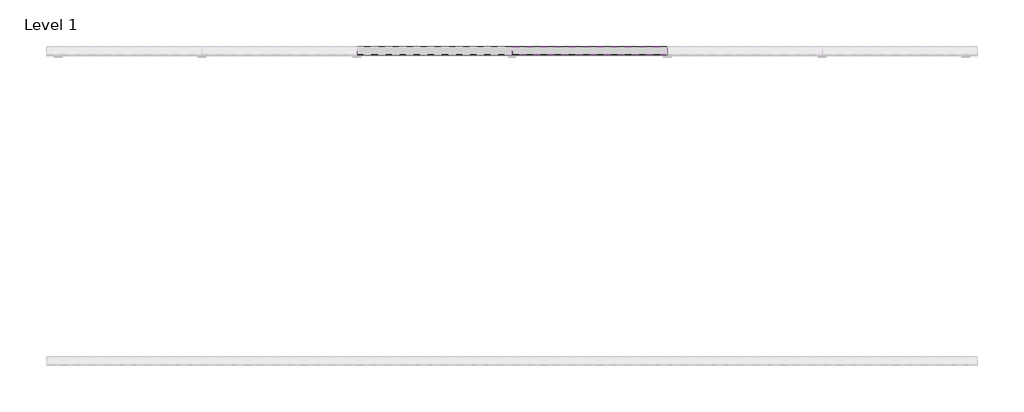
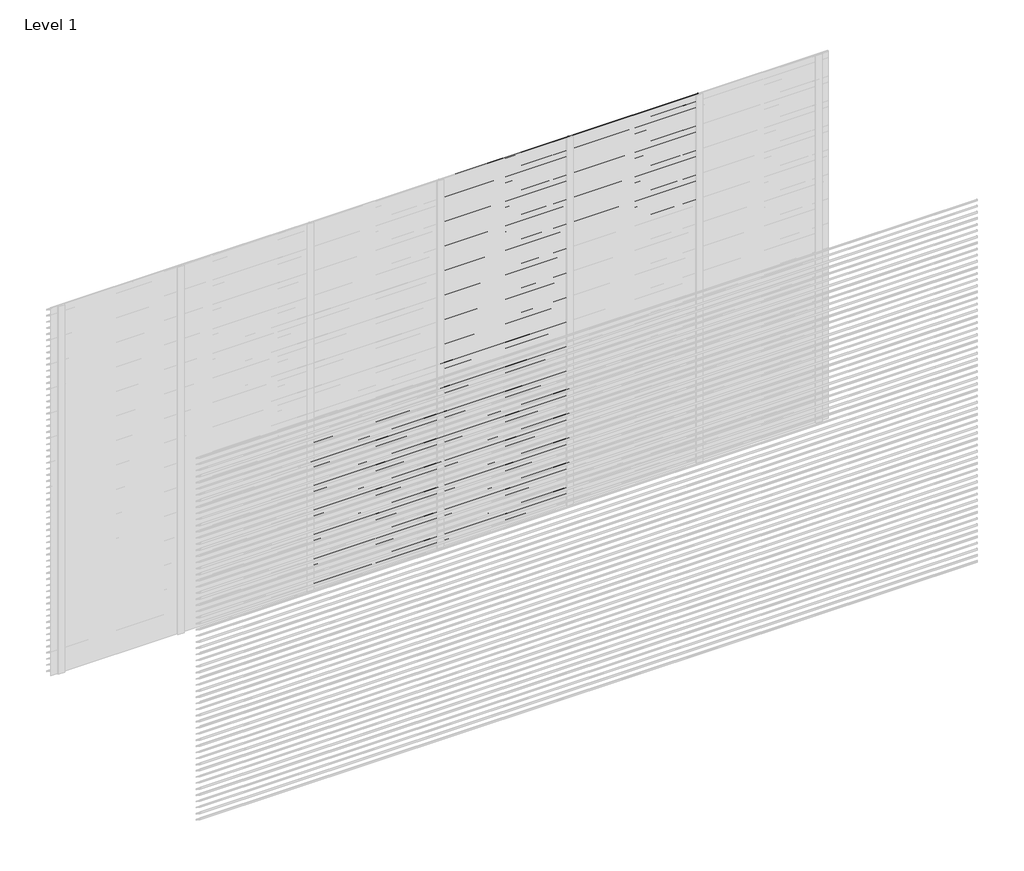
# One storey, part 17 of 18: 102 proxies.
"""IFC4 building model written with IfcOpenShell, lengths in millimetres."""

from ifc_helpers import new_model, si_unit, frame, origin, place, context, project, spatial, polyline, outline, extrude, element, save

model = new_model("IFC4")

# Units and contexts
model_context = context("Model", 3, world=origin())
ifc_project = project(units=[si_unit("LENGTHUNIT", "METRE", prefix="MILLI")], contexts=[model_context])

# Site, building, storey
site = spatial("IfcSite", under=ifc_project)
building = spatial("IfcBuilding", under=site)
storey = spatial("IfcBuildingStorey", under=building, Name="Level 1", Elevation=0.0)

# Proxies
placement = place(None, origin())
element("IfcBuildingElementProxy", 1, Name="Wall Sweeps", at=placement, inside=storey, context=model_context, shape_type="SweptSolid", body=[
    extrude(outline(polyline([(5.0, 1200.0), (5.0, 1191.0744429), (57.0, 1156.0), (57.0, 1150.0), (3.0, 1186.4234599), (3.0, 1200.0), (5.0, 1200.0)])), frame((2000.0, 0.0, 0.0), z_axis=(1.0, 0.0, 0.0), x_axis=(0.0, 1.0, 0.0)), (0.0, 0.0, 1.0), 1000.0),
])
element("IfcBuildingElementProxy", 2, Name="Wall Sweeps", at=placement, inside=storey, context=model_context, shape_type="SweptSolid", body=[
    extrude(outline(polyline([(5.0, 1150.0), (5.0, 1141.0744429), (57.0, 1106.0), (57.0, 1100.0), (3.0, 1136.4234599), (3.0, 1150.0), (5.0, 1150.0)])), frame((2000.0, 0.0, 0.0), z_axis=(1.0, 0.0, 0.0), x_axis=(0.0, 1.0, 0.0)), (0.0, 0.0, 1.0), 1000.0),
])
element("IfcBuildingElementProxy", 3, Name="Wall Sweeps", at=placement, inside=storey, context=model_context, shape_type="SweptSolid", body=[
    extrude(outline(polyline([(5.0, 1100.0), (5.0, 1091.0744429), (57.0, 1056.0), (57.0, 1050.0), (3.0, 1086.4234599), (3.0, 1100.0), (5.0, 1100.0)])), frame((2000.0, 0.0, 0.0), z_axis=(1.0, 0.0, 0.0), x_axis=(0.0, 1.0, 0.0)), (0.0, 0.0, 1.0), 1000.0),
])
element("IfcBuildingElementProxy", 4, Name="Wall Sweeps", at=placement, inside=storey, context=model_context, shape_type="SweptSolid", body=[
    extrude(outline(polyline([(5.0, 1050.0), (5.0, 1041.0744429), (57.0, 1006.0), (57.0, 1000.0), (3.0, 1036.4234599), (3.0, 1050.0), (5.0, 1050.0)])), frame((2000.0, 0.0, 0.0), z_axis=(1.0, 0.0, 0.0), x_axis=(0.0, 1.0, 0.0)), (0.0, 0.0, 1.0), 1000.0),
])
element("IfcBuildingElementProxy", 5, Name="Wall Sweeps", at=placement, inside=storey, context=model_context, shape_type="SweptSolid", body=[
    extrude(outline(polyline([(5.0, 1000.0), (5.0, 991.0744429), (57.0, 956.0), (57.0, 950.0), (3.0, 986.4234599), (3.0, 1000.0), (5.0, 1000.0)])), frame((2000.0, 0.0, 0.0), z_axis=(1.0, 0.0, 0.0), x_axis=(0.0, 1.0, 0.0)), (0.0, 0.0, 1.0), 1000.0),
])
element("IfcBuildingElementProxy", 6, Name="Wall Sweeps", at=placement, inside=storey, context=model_context, shape_type="SweptSolid", body=[
    extrude(outline(polyline([(5.0, 950.0), (5.0, 941.0744429), (57.0, 906.0), (57.0, 900.0), (3.0, 936.4234599), (3.0, 950.0), (5.0, 950.0)])), frame((2000.0, 0.0, 0.0), z_axis=(1.0, 0.0, 0.0), x_axis=(0.0, 1.0, 0.0)), (0.0, 0.0, 1.0), 1000.0),
])
element("IfcBuildingElementProxy", 7, Name="Wall Sweeps", at=placement, inside=storey, context=model_context, shape_type="SweptSolid", body=[
    extrude(outline(polyline([(5.0, 900.0), (5.0, 891.0744429), (57.0, 856.0), (57.0, 850.0), (3.0, 886.4234599), (3.0, 900.0), (5.0, 900.0)])), frame((2000.0, 0.0, 0.0), z_axis=(1.0, 0.0, 0.0), x_axis=(0.0, 1.0, 0.0)), (0.0, 0.0, 1.0), 1000.0),
])
element("IfcBuildingElementProxy", 8, Name="Wall Sweeps", at=placement, inside=storey, context=model_context, shape_type="SweptSolid", body=[
    extrude(outline(polyline([(5.0, 850.0), (5.0, 841.0744429), (57.0, 806.0), (57.0, 800.0), (3.0, 836.4234599), (3.0, 850.0), (5.0, 850.0)])), frame((2000.0, 0.0, 0.0), z_axis=(1.0, 0.0, 0.0), x_axis=(0.0, 1.0, 0.0)), (0.0, 0.0, 1.0), 1000.0),
])
element("IfcBuildingElementProxy", 9, Name="Wall Sweeps", at=placement, inside=storey, context=model_context, shape_type="SweptSolid", body=[
    extrude(outline(polyline([(5.0, 800.0), (5.0, 791.0744429), (57.0, 756.0), (57.0, 750.0), (3.0, 786.4234599), (3.0, 800.0), (5.0, 800.0)])), frame((2000.0, 0.0, 0.0), z_axis=(1.0, 0.0, 0.0), x_axis=(0.0, 1.0, 0.0)), (0.0, 0.0, 1.0), 1000.0),
])
element("IfcBuildingElementProxy", 10, Name="Wall Sweeps", at=placement, inside=storey, context=model_context, shape_type="SweptSolid", body=[
    extrude(outline(polyline([(5.0, 750.0), (5.0, 741.0744429), (57.0, 706.0), (57.0, 700.0), (3.0, 736.4234599), (3.0, 750.0), (5.0, 750.0)])), frame((2000.0, 0.0, 0.0), z_axis=(1.0, 0.0, 0.0), x_axis=(0.0, 1.0, 0.0)), (0.0, 0.0, 1.0), 1000.0),
])
element("IfcBuildingElementProxy", 11, Name="Wall Sweeps", at=placement, inside=storey, context=model_context, shape_type="SweptSolid", body=[
    extrude(outline(polyline([(5.0, 700.0), (5.0, 691.0744429), (57.0, 656.0), (57.0, 650.0), (3.0, 686.4234599), (3.0, 700.0), (5.0, 700.0)])), frame((2000.0, 0.0, 0.0), z_axis=(1.0, 0.0, 0.0), x_axis=(0.0, 1.0, 0.0)), (0.0, 0.0, 1.0), 1000.0),
])
element("IfcBuildingElementProxy", 12, Name="Wall Sweeps", at=placement, inside=storey, context=model_context, shape_type="SweptSolid", body=[
    extrude(outline(polyline([(5.0, 650.0), (5.0, 641.0744429), (57.0, 606.0), (57.0, 600.0), (3.0, 636.4234599), (3.0, 650.0), (5.0, 650.0)])), frame((2000.0, 0.0, 0.0), z_axis=(1.0, 0.0, 0.0), x_axis=(0.0, 1.0, 0.0)), (0.0, 0.0, 1.0), 1000.0),
])
element("IfcBuildingElementProxy", 13, Name="Wall Sweeps", at=placement, inside=storey, context=model_context, shape_type="SweptSolid", body=[
    extrude(outline(polyline([(5.0, 600.0), (5.0, 591.0744429), (57.0, 556.0), (57.0, 550.0), (3.0, 586.4234599), (3.0, 600.0), (5.0, 600.0)])), frame((2000.0, 0.0, 0.0), z_axis=(1.0, 0.0, 0.0), x_axis=(0.0, 1.0, 0.0)), (0.0, 0.0, 1.0), 1000.0),
])
element("IfcBuildingElementProxy", 14, Name="Wall Sweeps", at=placement, inside=storey, context=model_context, shape_type="SweptSolid", body=[
    extrude(outline(polyline([(5.0, 550.0), (5.0, 541.0744429), (57.0, 506.0), (57.0, 500.0), (3.0, 536.4234599), (3.0, 550.0), (5.0, 550.0)])), frame((2000.0, 0.0, 0.0), z_axis=(1.0, 0.0, 0.0), x_axis=(0.0, 1.0, 0.0)), (0.0, 0.0, 1.0), 1000.0),
])
element("IfcBuildingElementProxy", 15, Name="Wall Sweeps", at=placement, inside=storey, context=model_context, shape_type="SweptSolid", body=[
    extrude(outline(polyline([(5.0, 500.0), (5.0, 491.0744429), (57.0, 456.0), (57.0, 450.0), (3.0, 486.4234599), (3.0, 500.0), (5.0, 500.0)])), frame((2000.0, 0.0, 0.0), z_axis=(1.0, 0.0, 0.0), x_axis=(0.0, 1.0, 0.0)), (0.0, 0.0, 1.0), 1000.0),
])
element("IfcBuildingElementProxy", 16, Name="Wall Sweeps", at=placement, inside=storey, context=model_context, shape_type="SweptSolid", body=[
    extrude(outline(polyline([(5.0, 450.0), (5.0, 441.0744429), (57.0, 406.0), (57.0, 400.0), (3.0, 436.4234599), (3.0, 450.0), (5.0, 450.0)])), frame((2000.0, 0.0, 0.0), z_axis=(1.0, 0.0, 0.0), x_axis=(0.0, 1.0, 0.0)), (0.0, 0.0, 1.0), 1000.0),
])
element("IfcBuildingElementProxy", 17, Name="Wall Sweeps", at=placement, inside=storey, context=model_context, shape_type="SweptSolid", body=[
    extrude(outline(polyline([(5.0, 400.0), (5.0, 391.0744429), (57.0, 356.0), (57.0, 350.0), (3.0, 386.4234599), (3.0, 400.0), (5.0, 400.0)])), frame((2000.0, 0.0, 0.0), z_axis=(1.0, 0.0, 0.0), x_axis=(0.0, 1.0, 0.0)), (0.0, 0.0, 1.0), 1000.0),
])
element("IfcBuildingElementProxy", 18, Name="Wall Sweeps", at=placement, inside=storey, context=model_context, shape_type="SweptSolid", body=[
    extrude(outline(polyline([(5.0, 350.0), (5.0, 341.0744429), (57.0, 306.0), (57.0, 300.0), (3.0, 336.4234599), (3.0, 350.0), (5.0, 350.0)])), frame((2000.0, 0.0, 0.0), z_axis=(1.0, 0.0, 0.0), x_axis=(0.0, 1.0, 0.0)), (0.0, 0.0, 1.0), 1000.0),
])
element("IfcBuildingElementProxy", 19, Name="Wall Sweeps", at=placement, inside=storey, context=model_context, shape_type="SweptSolid", body=[
    extrude(outline(polyline([(5.0, 300.0), (5.0, 291.0744429), (57.0, 256.0), (57.0, 250.0), (3.0, 286.4234599), (3.0, 300.0), (5.0, 300.0)])), frame((2000.0, 0.0, 0.0), z_axis=(1.0, 0.0, 0.0), x_axis=(0.0, 1.0, 0.0)), (0.0, 0.0, 1.0), 1000.0),
])
element("IfcBuildingElementProxy", 20, Name="Wall Sweeps", at=placement, inside=storey, context=model_context, shape_type="SweptSolid", body=[
    extrude(outline(polyline([(5.0, 250.0), (5.0, 241.0744429), (57.0, 206.0), (57.0, 200.0), (3.0, 236.4234599), (3.0, 250.0), (5.0, 250.0)])), frame((2000.0, 0.0, 0.0), z_axis=(1.0, 0.0, 0.0), x_axis=(0.0, 1.0, 0.0)), (0.0, 0.0, 1.0), 1000.0),
])
element("IfcBuildingElementProxy", 21, Name="Wall Sweeps", at=placement, inside=storey, context=model_context, shape_type="SweptSolid", body=[
    extrude(outline(polyline([(5.0, 200.0), (5.0, 191.0744429), (57.0, 156.0), (57.0, 150.0), (3.0, 186.4234599), (3.0, 200.0), (5.0, 200.0)])), frame((2000.0, 0.0, 0.0), z_axis=(1.0, 0.0, 0.0), x_axis=(0.0, 1.0, 0.0)), (0.0, 0.0, 1.0), 1000.0),
])
element("IfcBuildingElementProxy", 22, Name="Wall Sweeps", at=placement, inside=storey, context=model_context, shape_type="SweptSolid", body=[
    extrude(outline(polyline([(5.0, 150.0), (5.0, 141.0744429), (57.0, 106.0), (57.0, 100.0), (3.0, 136.4234599), (3.0, 150.0), (5.0, 150.0)])), frame((2000.0, 0.0, 0.0), z_axis=(1.0, 0.0, 0.0), x_axis=(0.0, 1.0, 0.0)), (0.0, 0.0, 1.0), 1000.0),
])
element("IfcBuildingElementProxy", 23, Name="Wall Sweeps", at=placement, inside=storey, context=model_context, shape_type="SweptSolid", body=[
    extrude(outline(polyline([(5.0, 100.0), (5.0, 91.0744429), (57.0, 56.0), (57.0, 50.0), (3.0, 86.4234599), (3.0, 100.0), (5.0, 100.0)])), frame((2000.0, 0.0, 0.0), z_axis=(1.0, 0.0, 0.0), x_axis=(0.0, 1.0, 0.0)), (0.0, 0.0, 1.0), 1000.0),
])
element("IfcBuildingElementProxy", 24, Name="Wall Sweeps", at=placement, inside=storey, context=model_context, shape_type="SweptSolid", body=[
    extrude(outline(polyline([(5.0, 50.0), (5.0, 41.0744429), (57.0, 6.0), (57.0, 0.0), (3.0, 36.4234599), (3.0, 50.0), (5.0, 50.0)])), frame((2000.0, 0.0, 0.0), z_axis=(1.0, 0.0, 0.0), x_axis=(0.0, 1.0, 0.0)), (0.0, 0.0, 1.0), 1000.0),
])
element("IfcBuildingElementProxy", 25, Name="Wall Sweeps", at=placement, inside=storey, context=model_context, shape_type="SweptSolid", body=[
    extrude(outline(polyline([(5.0, 3000.0), (5.0, 2991.0744429), (57.0, 2956.0), (57.0, 2950.0), (3.0, 2986.4234599), (3.0, 3000.0), (5.0, 3000.0)])), frame((3000.0, 0.0, 0.0), z_axis=(1.0, 0.0, 0.0), x_axis=(0.0, 1.0, 0.0)), (0.0, 0.0, 1.0), 1000.0),
])
element("IfcBuildingElementProxy", 26, Name="Wall Sweeps", at=placement, inside=storey, context=model_context, shape_type="SweptSolid", body=[
    extrude(outline(polyline([(5.0, 2950.0), (5.0, 2941.0744429), (57.0, 2906.0), (57.0, 2900.0), (3.0, 2936.4234599), (3.0, 2950.0), (5.0, 2950.0)])), frame((3000.0, 0.0, 0.0), z_axis=(1.0, 0.0, 0.0), x_axis=(0.0, 1.0, 0.0)), (0.0, 0.0, 1.0), 1000.0),
])
element("IfcBuildingElementProxy", 27, Name="Wall Sweeps", at=placement, inside=storey, context=model_context, shape_type="SweptSolid", body=[
    extrude(outline(polyline([(5.0, 2900.0), (5.0, 2891.0744429), (57.0, 2856.0), (57.0, 2850.0), (3.0, 2886.4234599), (3.0, 2900.0), (5.0, 2900.0)])), frame((3000.0, 0.0, 0.0), z_axis=(1.0, 0.0, 0.0), x_axis=(0.0, 1.0, 0.0)), (0.0, 0.0, 1.0), 1000.0),
])
element("IfcBuildingElementProxy", 28, Name="Wall Sweeps", at=placement, inside=storey, context=model_context, shape_type="SweptSolid", body=[
    extrude(outline(polyline([(5.0, 2850.0), (5.0, 2841.0744429), (57.0, 2806.0), (57.0, 2800.0), (3.0, 2836.4234599), (3.0, 2850.0), (5.0, 2850.0)])), frame((3000.0, 0.0, 0.0), z_axis=(1.0, 0.0, 0.0), x_axis=(0.0, 1.0, 0.0)), (0.0, 0.0, 1.0), 1000.0),
])
element("IfcBuildingElementProxy", 29, Name="Wall Sweeps", at=placement, inside=storey, context=model_context, shape_type="SweptSolid", body=[
    extrude(outline(polyline([(5.0, 2800.0), (5.0, 2791.0744429), (57.0, 2756.0), (57.0, 2750.0), (3.0, 2786.4234599), (3.0, 2800.0), (5.0, 2800.0)])), frame((3000.0, 0.0, 0.0), z_axis=(1.0, 0.0, 0.0), x_axis=(0.0, 1.0, 0.0)), (0.0, 0.0, 1.0), 1000.0),
])
element("IfcBuildingElementProxy", 30, Name="Wall Sweeps", at=placement, inside=storey, context=model_context, shape_type="SweptSolid", body=[
    extrude(outline(polyline([(5.0, 2750.0), (5.0, 2741.0744429), (57.0, 2706.0), (57.0, 2700.0), (3.0, 2736.4234599), (3.0, 2750.0), (5.0, 2750.0)])), frame((3000.0, 0.0, 0.0), z_axis=(1.0, 0.0, 0.0), x_axis=(0.0, 1.0, 0.0)), (0.0, 0.0, 1.0), 1000.0),
])
element("IfcBuildingElementProxy", 31, Name="Wall Sweeps", at=placement, inside=storey, context=model_context, shape_type="SweptSolid", body=[
    extrude(outline(polyline([(5.0, 2700.0), (5.0, 2691.0744429), (57.0, 2656.0), (57.0, 2650.0), (3.0, 2686.4234599), (3.0, 2700.0), (5.0, 2700.0)])), frame((3000.0, 0.0, 0.0), z_axis=(1.0, 0.0, 0.0), x_axis=(0.0, 1.0, 0.0)), (0.0, 0.0, 1.0), 1000.0),
])
element("IfcBuildingElementProxy", 32, Name="Wall Sweeps", at=placement, inside=storey, context=model_context, shape_type="SweptSolid", body=[
    extrude(outline(polyline([(5.0, 2650.0), (5.0, 2641.0744429), (57.0, 2606.0), (57.0, 2600.0), (3.0, 2636.4234599), (3.0, 2650.0), (5.0, 2650.0)])), frame((3000.0, 0.0, 0.0), z_axis=(1.0, 0.0, 0.0), x_axis=(0.0, 1.0, 0.0)), (0.0, 0.0, 1.0), 1000.0),
])
element("IfcBuildingElementProxy", 33, Name="Wall Sweeps", at=placement, inside=storey, context=model_context, shape_type="SweptSolid", body=[
    extrude(outline(polyline([(5.0, 2600.0), (5.0, 2591.0744429), (57.0, 2556.0), (57.0, 2550.0), (3.0, 2586.4234599), (3.0, 2600.0), (5.0, 2600.0)])), frame((3000.0, 0.0, 0.0), z_axis=(1.0, 0.0, 0.0), x_axis=(0.0, 1.0, 0.0)), (0.0, 0.0, 1.0), 1000.0),
])
element("IfcBuildingElementProxy", 34, Name="Wall Sweeps", at=placement, inside=storey, context=model_context, shape_type="SweptSolid", body=[
    extrude(outline(polyline([(5.0, 2550.0), (5.0, 2541.0744429), (57.0, 2506.0), (57.0, 2500.0), (3.0, 2536.4234599), (3.0, 2550.0), (5.0, 2550.0)])), frame((3000.0, 0.0, 0.0), z_axis=(1.0, 0.0, 0.0), x_axis=(0.0, 1.0, 0.0)), (0.0, 0.0, 1.0), 1000.0),
])
element("IfcBuildingElementProxy", 35, Name="Wall Sweeps", at=placement, inside=storey, context=model_context, shape_type="SweptSolid", body=[
    extrude(outline(polyline([(5.0, 2500.0), (5.0, 2491.0744429), (57.0, 2456.0), (57.0, 2450.0), (3.0, 2486.4234599), (3.0, 2500.0), (5.0, 2500.0)])), frame((3000.0, 0.0, 0.0), z_axis=(1.0, 0.0, 0.0), x_axis=(0.0, 1.0, 0.0)), (0.0, 0.0, 1.0), 1000.0),
])
element("IfcBuildingElementProxy", 36, Name="Wall Sweeps", at=placement, inside=storey, context=model_context, shape_type="SweptSolid", body=[
    extrude(outline(polyline([(5.0, 2450.0), (5.0, 2441.0744429), (57.0, 2406.0), (57.0, 2400.0), (3.0, 2436.4234599), (3.0, 2450.0), (5.0, 2450.0)])), frame((3000.0, 0.0, 0.0), z_axis=(1.0, 0.0, 0.0), x_axis=(0.0, 1.0, 0.0)), (0.0, 0.0, 1.0), 1000.0),
])
element("IfcBuildingElementProxy", 37, Name="Wall Sweeps", at=placement, inside=storey, context=model_context, shape_type="SweptSolid", body=[
    extrude(outline(polyline([(5.0, 2400.0), (5.0, 2391.0744429), (57.0, 2356.0), (57.0, 2350.0), (3.0, 2386.4234599), (3.0, 2400.0), (5.0, 2400.0)])), frame((3000.0, 0.0, 0.0), z_axis=(1.0, 0.0, 0.0), x_axis=(0.0, 1.0, 0.0)), (0.0, 0.0, 1.0), 1000.0),
])
element("IfcBuildingElementProxy", 38, Name="Wall Sweeps", at=placement, inside=storey, context=model_context, shape_type="SweptSolid", body=[
    extrude(outline(polyline([(5.0, 2350.0), (5.0, 2341.0744429), (57.0, 2306.0), (57.0, 2300.0), (3.0, 2336.4234599), (3.0, 2350.0), (5.0, 2350.0)])), frame((3000.0, 0.0, 0.0), z_axis=(1.0, 0.0, 0.0), x_axis=(0.0, 1.0, 0.0)), (0.0, 0.0, 1.0), 1000.0),
])
element("IfcBuildingElementProxy", 39, Name="Wall Sweeps", at=placement, inside=storey, context=model_context, shape_type="SweptSolid", body=[
    extrude(outline(polyline([(5.0, 2300.0), (5.0, 2291.0744429), (57.0, 2256.0), (57.0, 2250.0), (3.0, 2286.4234599), (3.0, 2300.0), (5.0, 2300.0)])), frame((3000.0, 0.0, 0.0), z_axis=(1.0, 0.0, 0.0), x_axis=(0.0, 1.0, 0.0)), (0.0, 0.0, 1.0), 1000.0),
])
element("IfcBuildingElementProxy", 40, Name="Wall Sweeps", at=placement, inside=storey, context=model_context, shape_type="SweptSolid", body=[
    extrude(outline(polyline([(5.0, 2250.0), (5.0, 2241.0744429), (57.0, 2206.0), (57.0, 2200.0), (3.0, 2236.4234599), (3.0, 2250.0), (5.0, 2250.0)])), frame((3000.0, 0.0, 0.0), z_axis=(1.0, 0.0, 0.0), x_axis=(0.0, 1.0, 0.0)), (0.0, 0.0, 1.0), 1000.0),
])
element("IfcBuildingElementProxy", 41, Name="Wall Sweeps", at=placement, inside=storey, context=model_context, shape_type="SweptSolid", body=[
    extrude(outline(polyline([(5.0, 2200.0), (5.0, 2191.0744429), (57.0, 2156.0), (57.0, 2150.0), (3.0, 2186.4234599), (3.0, 2200.0), (5.0, 2200.0)])), frame((3000.0, 0.0, 0.0), z_axis=(1.0, 0.0, 0.0), x_axis=(0.0, 1.0, 0.0)), (0.0, 0.0, 1.0), 1000.0),
])
element("IfcBuildingElementProxy", 42, Name="Wall Sweeps", at=placement, inside=storey, context=model_context, shape_type="SweptSolid", body=[
    extrude(outline(polyline([(5.0, 2150.0), (5.0, 2141.0744429), (57.0, 2106.0), (57.0, 2100.0), (3.0, 2136.4234599), (3.0, 2150.0), (5.0, 2150.0)])), frame((3000.0, 0.0, 0.0), z_axis=(1.0, 0.0, 0.0), x_axis=(0.0, 1.0, 0.0)), (0.0, 0.0, 1.0), 1000.0),
])
element("IfcBuildingElementProxy", 43, Name="Wall Sweeps", at=placement, inside=storey, context=model_context, shape_type="SweptSolid", body=[
    extrude(outline(polyline([(5.0, 2100.0), (5.0, 2091.0744429), (57.0, 2056.0), (57.0, 2050.0), (3.0, 2086.4234599), (3.0, 2100.0), (5.0, 2100.0)])), frame((3000.0, 0.0, 0.0), z_axis=(1.0, 0.0, 0.0), x_axis=(0.0, 1.0, 0.0)), (0.0, 0.0, 1.0), 1000.0),
])
element("IfcBuildingElementProxy", 44, Name="Wall Sweeps", at=placement, inside=storey, context=model_context, shape_type="SweptSolid", body=[
    extrude(outline(polyline([(5.0, 2050.0), (5.0, 2041.0744429), (57.0, 2006.0), (57.0, 2000.0), (3.0, 2036.4234599), (3.0, 2050.0), (5.0, 2050.0)])), frame((3000.0, 0.0, 0.0), z_axis=(1.0, 0.0, 0.0), x_axis=(0.0, 1.0, 0.0)), (0.0, 0.0, 1.0), 1000.0),
])
element("IfcBuildingElementProxy", 45, Name="Wall Sweeps", at=placement, inside=storey, context=model_context, shape_type="SweptSolid", body=[
    extrude(outline(polyline([(5.0, 2000.0), (5.0, 1991.0744429), (57.0, 1956.0), (57.0, 1950.0), (3.0, 1986.4234599), (3.0, 2000.0), (5.0, 2000.0)])), frame((3000.0, 0.0, 0.0), z_axis=(1.0, 0.0, 0.0), x_axis=(0.0, 1.0, 0.0)), (0.0, 0.0, 1.0), 1000.0),
])
element("IfcBuildingElementProxy", 46, Name="Wall Sweeps", at=placement, inside=storey, context=model_context, shape_type="SweptSolid", body=[
    extrude(outline(polyline([(5.0, 1950.0), (5.0, 1941.0744429), (57.0, 1906.0), (57.0, 1900.0), (3.0, 1936.4234599), (3.0, 1950.0), (5.0, 1950.0)])), frame((3000.0, 0.0, 0.0), z_axis=(1.0, 0.0, 0.0), x_axis=(0.0, 1.0, 0.0)), (0.0, 0.0, 1.0), 1000.0),
])
element("IfcBuildingElementProxy", 47, Name="Wall Sweeps", at=placement, inside=storey, context=model_context, shape_type="SweptSolid", body=[
    extrude(outline(polyline([(5.0, 1900.0), (5.0, 1891.0744429), (57.0, 1856.0), (57.0, 1850.0), (3.0, 1886.4234599), (3.0, 1900.0), (5.0, 1900.0)])), frame((3000.0, 0.0, 0.0), z_axis=(1.0, 0.0, 0.0), x_axis=(0.0, 1.0, 0.0)), (0.0, 0.0, 1.0), 1000.0),
])
element("IfcBuildingElementProxy", 48, Name="Wall Sweeps", at=placement, inside=storey, context=model_context, shape_type="SweptSolid", body=[
    extrude(outline(polyline([(5.0, 1850.0), (5.0, 1841.0744429), (57.0, 1806.0), (57.0, 1800.0), (3.0, 1836.4234599), (3.0, 1850.0), (5.0, 1850.0)])), frame((3000.0, 0.0, 0.0), z_axis=(1.0, 0.0, 0.0), x_axis=(0.0, 1.0, 0.0)), (0.0, 0.0, 1.0), 1000.0),
])
element("IfcBuildingElementProxy", 49, Name="Wall Sweeps", at=placement, inside=storey, context=model_context, shape_type="SweptSolid", body=[
    extrude(outline(polyline([(5.0, 1800.0), (5.0, 1791.0744429), (57.0, 1756.0), (57.0, 1750.0), (3.0, 1786.4234599), (3.0, 1800.0), (5.0, 1800.0)])), frame((3000.0, 0.0, 0.0), z_axis=(1.0, 0.0, 0.0), x_axis=(0.0, 1.0, 0.0)), (0.0, 0.0, 1.0), 1000.0),
])
element("IfcBuildingElementProxy", 50, Name="Wall Sweeps", at=placement, inside=storey, context=model_context, shape_type="SweptSolid", body=[
    extrude(outline(polyline([(5.0, 1750.0), (5.0, 1741.0744429), (57.0, 1706.0), (57.0, 1700.0), (3.0, 1736.4234599), (3.0, 1750.0), (5.0, 1750.0)])), frame((3000.0, 0.0, 0.0), z_axis=(1.0, 0.0, 0.0), x_axis=(0.0, 1.0, 0.0)), (0.0, 0.0, 1.0), 1000.0),
])
element("IfcBuildingElementProxy", 51, Name="Wall Sweeps", at=placement, inside=storey, context=model_context, shape_type="SweptSolid", body=[
    extrude(outline(polyline([(5.0, 1700.0), (5.0, 1691.0744429), (57.0, 1656.0), (57.0, 1650.0), (3.0, 1686.4234599), (3.0, 1700.0), (5.0, 1700.0)])), frame((3000.0, 0.0, 0.0), z_axis=(1.0, 0.0, 0.0), x_axis=(0.0, 1.0, 0.0)), (0.0, 0.0, 1.0), 1000.0),
])
element("IfcBuildingElementProxy", 52, Name="Wall Sweeps", at=placement, inside=storey, context=model_context, shape_type="SweptSolid", body=[
    extrude(outline(polyline([(5.0, 1650.0), (5.0, 1641.0744429), (57.0, 1606.0), (57.0, 1600.0), (3.0, 1636.4234599), (3.0, 1650.0), (5.0, 1650.0)])), frame((3000.0, 0.0, 0.0), z_axis=(1.0, 0.0, 0.0), x_axis=(0.0, 1.0, 0.0)), (0.0, 0.0, 1.0), 1000.0),
])
element("IfcBuildingElementProxy", 53, Name="Wall Sweeps", at=placement, inside=storey, context=model_context, shape_type="SweptSolid", body=[
    extrude(outline(polyline([(5.0, 1600.0), (5.0, 1591.0744429), (57.0, 1556.0), (57.0, 1550.0), (3.0, 1586.4234599), (3.0, 1600.0), (5.0, 1600.0)])), frame((3000.0, 0.0, 0.0), z_axis=(1.0, 0.0, 0.0), x_axis=(0.0, 1.0, 0.0)), (0.0, 0.0, 1.0), 1000.0),
])
element("IfcBuildingElementProxy", 54, Name="Wall Sweeps", at=placement, inside=storey, context=model_context, shape_type="SweptSolid", body=[
    extrude(outline(polyline([(5.0, 1550.0), (5.0, 1541.0744429), (57.0, 1506.0), (57.0, 1500.0), (3.0, 1536.4234599), (3.0, 1550.0), (5.0, 1550.0)])), frame((3000.0, 0.0, 0.0), z_axis=(1.0, 0.0, 0.0), x_axis=(0.0, 1.0, 0.0)), (0.0, 0.0, 1.0), 1000.0),
])
element("IfcBuildingElementProxy", 55, Name="Wall Sweeps", at=placement, inside=storey, context=model_context, shape_type="SweptSolid", body=[
    extrude(outline(polyline([(5.0, 1500.0), (5.0, 1491.0744429), (57.0, 1456.0), (57.0, 1450.0), (3.0, 1486.4234599), (3.0, 1500.0), (5.0, 1500.0)])), frame((3000.0, 0.0, 0.0), z_axis=(1.0, 0.0, 0.0), x_axis=(0.0, 1.0, 0.0)), (0.0, 0.0, 1.0), 1000.0),
])
element("IfcBuildingElementProxy", 56, Name="Wall Sweeps", at=placement, inside=storey, context=model_context, shape_type="SweptSolid", body=[
    extrude(outline(polyline([(5.0, 1450.0), (5.0, 1441.0744429), (57.0, 1406.0), (57.0, 1400.0), (3.0, 1436.4234599), (3.0, 1450.0), (5.0, 1450.0)])), frame((3000.0, 0.0, 0.0), z_axis=(1.0, 0.0, 0.0), x_axis=(0.0, 1.0, 0.0)), (0.0, 0.0, 1.0), 1000.0),
])
element("IfcBuildingElementProxy", 57, Name="Wall Sweeps", at=placement, inside=storey, context=model_context, shape_type="SweptSolid", body=[
    extrude(outline(polyline([(5.0, 1400.0), (5.0, 1391.0744429), (57.0, 1356.0), (57.0, 1350.0), (3.0, 1386.4234599), (3.0, 1400.0), (5.0, 1400.0)])), frame((3000.0, 0.0, 0.0), z_axis=(1.0, 0.0, 0.0), x_axis=(0.0, 1.0, 0.0)), (0.0, 0.0, 1.0), 1000.0),
])
element("IfcBuildingElementProxy", 58, Name="Wall Sweeps", at=placement, inside=storey, context=model_context, shape_type="SweptSolid", body=[
    extrude(outline(polyline([(5.0, 1350.0), (5.0, 1341.0744429), (57.0, 1306.0), (57.0, 1300.0), (3.0, 1336.4234599), (3.0, 1350.0), (5.0, 1350.0)])), frame((3000.0, 0.0, 0.0), z_axis=(1.0, 0.0, 0.0), x_axis=(0.0, 1.0, 0.0)), (0.0, 0.0, 1.0), 1000.0),
])
element("IfcBuildingElementProxy", 59, Name="Wall Sweeps", at=placement, inside=storey, context=model_context, shape_type="SweptSolid", body=[
    extrude(outline(polyline([(5.0, 1300.0), (5.0, 1291.0744429), (57.0, 1256.0), (57.0, 1250.0), (3.0, 1286.4234599), (3.0, 1300.0), (5.0, 1300.0)])), frame((3000.0, 0.0, 0.0), z_axis=(1.0, 0.0, 0.0), x_axis=(0.0, 1.0, 0.0)), (0.0, 0.0, 1.0), 1000.0),
])
element("IfcBuildingElementProxy", 60, Name="Wall Sweeps", at=placement, inside=storey, context=model_context, shape_type="SweptSolid", body=[
    extrude(outline(polyline([(5.0, 1250.0), (5.0, 1241.0744429), (57.0, 1206.0), (57.0, 1200.0), (3.0, 1236.4234599), (3.0, 1250.0), (5.0, 1250.0)])), frame((3000.0, 0.0, 0.0), z_axis=(1.0, 0.0, 0.0), x_axis=(0.0, 1.0, 0.0)), (0.0, 0.0, 1.0), 1000.0),
])
element("IfcBuildingElementProxy", 61, Name="Wall Sweeps", at=placement, inside=storey, context=model_context, shape_type="SweptSolid", body=[
    extrude(outline(polyline([(5.0, 1200.0), (5.0, 1191.0744429), (57.0, 1156.0), (57.0, 1150.0), (3.0, 1186.4234599), (3.0, 1200.0), (5.0, 1200.0)])), frame((3000.0, 0.0, 0.0), z_axis=(1.0, 0.0, 0.0), x_axis=(0.0, 1.0, 0.0)), (0.0, 0.0, 1.0), 1000.0),
])
element("IfcBuildingElementProxy", 62, Name="Wall Sweeps", at=placement, inside=storey, context=model_context, shape_type="SweptSolid", body=[
    extrude(outline(polyline([(5.0, 1150.0), (5.0, 1141.0744429), (57.0, 1106.0), (57.0, 1100.0), (3.0, 1136.4234599), (3.0, 1150.0), (5.0, 1150.0)])), frame((3000.0, 0.0, 0.0), z_axis=(1.0, 0.0, 0.0), x_axis=(0.0, 1.0, 0.0)), (0.0, 0.0, 1.0), 1000.0),
])
element("IfcBuildingElementProxy", 63, Name="Wall Sweeps", at=placement, inside=storey, context=model_context, shape_type="SweptSolid", body=[
    extrude(outline(polyline([(5.0, 1100.0), (5.0, 1091.0744429), (57.0, 1056.0), (57.0, 1050.0), (3.0, 1086.4234599), (3.0, 1100.0), (5.0, 1100.0)])), frame((3000.0, 0.0, 0.0), z_axis=(1.0, 0.0, 0.0), x_axis=(0.0, 1.0, 0.0)), (0.0, 0.0, 1.0), 1000.0),
])
element("IfcBuildingElementProxy", 64, Name="Wall Sweeps", at=placement, inside=storey, context=model_context, shape_type="SweptSolid", body=[
    extrude(outline(polyline([(5.0, 1050.0), (5.0, 1041.0744429), (57.0, 1006.0), (57.0, 1000.0), (3.0, 1036.4234599), (3.0, 1050.0), (5.0, 1050.0)])), frame((3000.0, 0.0, 0.0), z_axis=(1.0, 0.0, 0.0), x_axis=(0.0, 1.0, 0.0)), (0.0, 0.0, 1.0), 1000.0),
])
element("IfcBuildingElementProxy", 65, Name="Wall Sweeps", at=placement, inside=storey, context=model_context, shape_type="SweptSolid", body=[
    extrude(outline(polyline([(5.0, 1000.0), (5.0, 991.0744429), (57.0, 956.0), (57.0, 950.0), (3.0, 986.4234599), (3.0, 1000.0), (5.0, 1000.0)])), frame((3000.0, 0.0, 0.0), z_axis=(1.0, 0.0, 0.0), x_axis=(0.0, 1.0, 0.0)), (0.0, 0.0, 1.0), 1000.0),
])
element("IfcBuildingElementProxy", 66, Name="Wall Sweeps", at=placement, inside=storey, context=model_context, shape_type="SweptSolid", body=[
    extrude(outline(polyline([(5.0, 950.0), (5.0, 941.0744429), (57.0, 906.0), (57.0, 900.0), (3.0, 936.4234599), (3.0, 950.0), (5.0, 950.0)])), frame((3000.0, 0.0, 0.0), z_axis=(1.0, 0.0, 0.0), x_axis=(0.0, 1.0, 0.0)), (0.0, 0.0, 1.0), 1000.0),
])
element("IfcBuildingElementProxy", 67, Name="Wall Sweeps", at=placement, inside=storey, context=model_context, shape_type="SweptSolid", body=[
    extrude(outline(polyline([(5.0, 900.0), (5.0, 891.0744429), (57.0, 856.0), (57.0, 850.0), (3.0, 886.4234599), (3.0, 900.0), (5.0, 900.0)])), frame((3000.0, 0.0, 0.0), z_axis=(1.0, 0.0, 0.0), x_axis=(0.0, 1.0, 0.0)), (0.0, 0.0, 1.0), 1000.0),
])
element("IfcBuildingElementProxy", 68, Name="Wall Sweeps", at=placement, inside=storey, context=model_context, shape_type="SweptSolid", body=[
    extrude(outline(polyline([(5.0, 850.0), (5.0, 841.0744429), (57.0, 806.0), (57.0, 800.0), (3.0, 836.4234599), (3.0, 850.0), (5.0, 850.0)])), frame((3000.0, 0.0, 0.0), z_axis=(1.0, 0.0, 0.0), x_axis=(0.0, 1.0, 0.0)), (0.0, 0.0, 1.0), 1000.0),
])
element("IfcBuildingElementProxy", 69, Name="Wall Sweeps", at=placement, inside=storey, context=model_context, shape_type="SweptSolid", body=[
    extrude(outline(polyline([(5.0, 800.0), (5.0, 791.0744429), (57.0, 756.0), (57.0, 750.0), (3.0, 786.4234599), (3.0, 800.0), (5.0, 800.0)])), frame((3000.0, 0.0, 0.0), z_axis=(1.0, 0.0, 0.0), x_axis=(0.0, 1.0, 0.0)), (0.0, 0.0, 1.0), 1000.0),
])
element("IfcBuildingElementProxy", 70, Name="Wall Sweeps", at=placement, inside=storey, context=model_context, shape_type="SweptSolid", body=[
    extrude(outline(polyline([(5.0, 750.0), (5.0, 741.0744429), (57.0, 706.0), (57.0, 700.0), (3.0, 736.4234599), (3.0, 750.0), (5.0, 750.0)])), frame((3000.0, 0.0, 0.0), z_axis=(1.0, 0.0, 0.0), x_axis=(0.0, 1.0, 0.0)), (0.0, 0.0, 1.0), 1000.0),
])
element("IfcBuildingElementProxy", 71, Name="Wall Sweeps", at=placement, inside=storey, context=model_context, shape_type="SweptSolid", body=[
    extrude(outline(polyline([(5.0, 700.0), (5.0, 691.0744429), (57.0, 656.0), (57.0, 650.0), (3.0, 686.4234599), (3.0, 700.0), (5.0, 700.0)])), frame((3000.0, 0.0, 0.0), z_axis=(1.0, 0.0, 0.0), x_axis=(0.0, 1.0, 0.0)), (0.0, 0.0, 1.0), 1000.0),
])
element("IfcBuildingElementProxy", 72, Name="Wall Sweeps", at=placement, inside=storey, context=model_context, shape_type="SweptSolid", body=[
    extrude(outline(polyline([(5.0, 650.0), (5.0, 641.0744429), (57.0, 606.0), (57.0, 600.0), (3.0, 636.4234599), (3.0, 650.0), (5.0, 650.0)])), frame((3000.0, 0.0, 0.0), z_axis=(1.0, 0.0, 0.0), x_axis=(0.0, 1.0, 0.0)), (0.0, 0.0, 1.0), 1000.0),
])
element("IfcBuildingElementProxy", 73, Name="Wall Sweeps", at=placement, inside=storey, context=model_context, shape_type="SweptSolid", body=[
    extrude(outline(polyline([(5.0, 600.0), (5.0, 591.0744429), (57.0, 556.0), (57.0, 550.0), (3.0, 586.4234599), (3.0, 600.0), (5.0, 600.0)])), frame((3000.0, 0.0, 0.0), z_axis=(1.0, 0.0, 0.0), x_axis=(0.0, 1.0, 0.0)), (0.0, 0.0, 1.0), 1000.0),
])
element("IfcBuildingElementProxy", 74, Name="Wall Sweeps", at=placement, inside=storey, context=model_context, shape_type="SweptSolid", body=[
    extrude(outline(polyline([(5.0, 550.0), (5.0, 541.0744429), (57.0, 506.0), (57.0, 500.0), (3.0, 536.4234599), (3.0, 550.0), (5.0, 550.0)])), frame((3000.0, 0.0, 0.0), z_axis=(1.0, 0.0, 0.0), x_axis=(0.0, 1.0, 0.0)), (0.0, 0.0, 1.0), 1000.0),
])
element("IfcBuildingElementProxy", 75, Name="Wall Sweeps", at=placement, inside=storey, context=model_context, shape_type="SweptSolid", body=[
    extrude(outline(polyline([(5.0, 500.0), (5.0, 491.0744429), (57.0, 456.0), (57.0, 450.0), (3.0, 486.4234599), (3.0, 500.0), (5.0, 500.0)])), frame((3000.0, 0.0, 0.0), z_axis=(1.0, 0.0, 0.0), x_axis=(0.0, 1.0, 0.0)), (0.0, 0.0, 1.0), 1000.0),
])
element("IfcBuildingElementProxy", 76, Name="Wall Sweeps", at=placement, inside=storey, context=model_context, shape_type="SweptSolid", body=[
    extrude(outline(polyline([(5.0, 450.0), (5.0, 441.0744429), (57.0, 406.0), (57.0, 400.0), (3.0, 436.4234599), (3.0, 450.0), (5.0, 450.0)])), frame((3000.0, 0.0, 0.0), z_axis=(1.0, 0.0, 0.0), x_axis=(0.0, 1.0, 0.0)), (0.0, 0.0, 1.0), 1000.0),
])
element("IfcBuildingElementProxy", 77, Name="Wall Sweeps", at=placement, inside=storey, context=model_context, shape_type="SweptSolid", body=[
    extrude(outline(polyline([(5.0, 400.0), (5.0, 391.0744429), (57.0, 356.0), (57.0, 350.0), (3.0, 386.4234599), (3.0, 400.0), (5.0, 400.0)])), frame((3000.0, 0.0, 0.0), z_axis=(1.0, 0.0, 0.0), x_axis=(0.0, 1.0, 0.0)), (0.0, 0.0, 1.0), 1000.0),
])
element("IfcBuildingElementProxy", 78, Name="Wall Sweeps", at=placement, inside=storey, context=model_context, shape_type="SweptSolid", body=[
    extrude(outline(polyline([(5.0, 350.0), (5.0, 341.0744429), (57.0, 306.0), (57.0, 300.0), (3.0, 336.4234599), (3.0, 350.0), (5.0, 350.0)])), frame((3000.0, 0.0, 0.0), z_axis=(1.0, 0.0, 0.0), x_axis=(0.0, 1.0, 0.0)), (0.0, 0.0, 1.0), 1000.0),
])
element("IfcBuildingElementProxy", 79, Name="Wall Sweeps", at=placement, inside=storey, context=model_context, shape_type="SweptSolid", body=[
    extrude(outline(polyline([(5.0, 300.0), (5.0, 291.0744429), (57.0, 256.0), (57.0, 250.0), (3.0, 286.4234599), (3.0, 300.0), (5.0, 300.0)])), frame((3000.0, 0.0, 0.0), z_axis=(1.0, 0.0, 0.0), x_axis=(0.0, 1.0, 0.0)), (0.0, 0.0, 1.0), 1000.0),
])
element("IfcBuildingElementProxy", 80, Name="Wall Sweeps", at=placement, inside=storey, context=model_context, shape_type="SweptSolid", body=[
    extrude(outline(polyline([(5.0, 250.0), (5.0, 241.0744429), (57.0, 206.0), (57.0, 200.0), (3.0, 236.4234599), (3.0, 250.0), (5.0, 250.0)])), frame((3000.0, 0.0, 0.0), z_axis=(1.0, 0.0, 0.0), x_axis=(0.0, 1.0, 0.0)), (0.0, 0.0, 1.0), 1000.0),
])
element("IfcBuildingElementProxy", 81, Name="Wall Sweeps", at=placement, inside=storey, context=model_context, shape_type="SweptSolid", body=[
    extrude(outline(polyline([(5.0, 200.0), (5.0, 191.0744429), (57.0, 156.0), (57.0, 150.0), (3.0, 186.4234599), (3.0, 200.0), (5.0, 200.0)])), frame((3000.0, 0.0, 0.0), z_axis=(1.0, 0.0, 0.0), x_axis=(0.0, 1.0, 0.0)), (0.0, 0.0, 1.0), 1000.0),
])
element("IfcBuildingElementProxy", 82, Name="Wall Sweeps", at=placement, inside=storey, context=model_context, shape_type="SweptSolid", body=[
    extrude(outline(polyline([(5.0, 150.0), (5.0, 141.0744429), (57.0, 106.0), (57.0, 100.0), (3.0, 136.4234599), (3.0, 150.0), (5.0, 150.0)])), frame((3000.0, 0.0, 0.0), z_axis=(1.0, 0.0, 0.0), x_axis=(0.0, 1.0, 0.0)), (0.0, 0.0, 1.0), 1000.0),
])
element("IfcBuildingElementProxy", 83, Name="Wall Sweeps", at=placement, inside=storey, context=model_context, shape_type="SweptSolid", body=[
    extrude(outline(polyline([(5.0, 100.0), (5.0, 91.0744429), (57.0, 56.0), (57.0, 50.0), (3.0, 86.4234599), (3.0, 100.0), (5.0, 100.0)])), frame((3000.0, 0.0, 0.0), z_axis=(1.0, 0.0, 0.0), x_axis=(0.0, 1.0, 0.0)), (0.0, 0.0, 1.0), 1000.0),
])
element("IfcBuildingElementProxy", 84, Name="Wall Sweeps", at=placement, inside=storey, context=model_context, shape_type="SweptSolid", body=[
    extrude(outline(polyline([(5.0, 50.0), (5.0, 41.0744429), (57.0, 6.0), (57.0, 0.0), (3.0, 36.4234599), (3.0, 50.0), (5.0, 50.0)])), frame((3000.0, 0.0, 0.0), z_axis=(1.0, 0.0, 0.0), x_axis=(0.0, 1.0, 0.0)), (0.0, 0.0, 1.0), 1000.0),
])
element("IfcBuildingElementProxy", 85, Name="Wall Sweeps", at=placement, inside=storey, context=model_context, shape_type="SweptSolid", body=[
    extrude(outline(polyline([(5.0, 3000.0), (5.0, 2991.0744429), (57.0, 2956.0), (57.0, 2950.0), (3.0, 2986.4234599), (3.0, 3000.0), (5.0, 3000.0)])), frame((4000.0, 0.0, 0.0), z_axis=(1.0, 0.0, 0.0), x_axis=(0.0, 1.0, 0.0)), (0.0, 0.0, 1.0), 1000.0),
])
element("IfcBuildingElementProxy", 86, Name="Wall Sweeps", at=placement, inside=storey, context=model_context, shape_type="SweptSolid", body=[
    extrude(outline(polyline([(5.0, 2950.0), (5.0, 2941.0744429), (57.0, 2906.0), (57.0, 2900.0), (3.0, 2936.4234599), (3.0, 2950.0), (5.0, 2950.0)])), frame((4000.0, 0.0, 0.0), z_axis=(1.0, 0.0, 0.0), x_axis=(0.0, 1.0, 0.0)), (0.0, 0.0, 1.0), 1000.0),
])
element("IfcBuildingElementProxy", 87, Name="Wall Sweeps", at=placement, inside=storey, context=model_context, shape_type="SweptSolid", body=[
    extrude(outline(polyline([(5.0, 2900.0), (5.0, 2891.0744429), (57.0, 2856.0), (57.0, 2850.0), (3.0, 2886.4234599), (3.0, 2900.0), (5.0, 2900.0)])), frame((4000.0, 0.0, 0.0), z_axis=(1.0, 0.0, 0.0), x_axis=(0.0, 1.0, 0.0)), (0.0, 0.0, 1.0), 1000.0),
])
element("IfcBuildingElementProxy", 88, Name="Wall Sweeps", at=placement, inside=storey, context=model_context, shape_type="SweptSolid", body=[
    extrude(outline(polyline([(5.0, 2850.0), (5.0, 2841.0744429), (57.0, 2806.0), (57.0, 2800.0), (3.0, 2836.4234599), (3.0, 2850.0), (5.0, 2850.0)])), frame((4000.0, 0.0, 0.0), z_axis=(1.0, 0.0, 0.0), x_axis=(0.0, 1.0, 0.0)), (0.0, 0.0, 1.0), 1000.0),
])
element("IfcBuildingElementProxy", 89, Name="Wall Sweeps", at=placement, inside=storey, context=model_context, shape_type="SweptSolid", body=[
    extrude(outline(polyline([(5.0, 2800.0), (5.0, 2791.0744429), (57.0, 2756.0), (57.0, 2750.0), (3.0, 2786.4234599), (3.0, 2800.0), (5.0, 2800.0)])), frame((4000.0, 0.0, 0.0), z_axis=(1.0, 0.0, 0.0), x_axis=(0.0, 1.0, 0.0)), (0.0, 0.0, 1.0), 1000.0),
])
element("IfcBuildingElementProxy", 90, Name="Wall Sweeps", at=placement, inside=storey, context=model_context, shape_type="SweptSolid", body=[
    extrude(outline(polyline([(5.0, 2750.0), (5.0, 2741.0744429), (57.0, 2706.0), (57.0, 2700.0), (3.0, 2736.4234599), (3.0, 2750.0), (5.0, 2750.0)])), frame((4000.0, 0.0, 0.0), z_axis=(1.0, 0.0, 0.0), x_axis=(0.0, 1.0, 0.0)), (0.0, 0.0, 1.0), 1000.0),
])
element("IfcBuildingElementProxy", 91, Name="Wall Sweeps", at=placement, inside=storey, context=model_context, shape_type="SweptSolid", body=[
    extrude(outline(polyline([(5.0, 2700.0), (5.0, 2691.0744429), (57.0, 2656.0), (57.0, 2650.0), (3.0, 2686.4234599), (3.0, 2700.0), (5.0, 2700.0)])), frame((4000.0, 0.0, 0.0), z_axis=(1.0, 0.0, 0.0), x_axis=(0.0, 1.0, 0.0)), (0.0, 0.0, 1.0), 1000.0),
])
element("IfcBuildingElementProxy", 92, Name="Wall Sweeps", at=placement, inside=storey, context=model_context, shape_type="SweptSolid", body=[
    extrude(outline(polyline([(5.0, 2650.0), (5.0, 2641.0744429), (57.0, 2606.0), (57.0, 2600.0), (3.0, 2636.4234599), (3.0, 2650.0), (5.0, 2650.0)])), frame((4000.0, 0.0, 0.0), z_axis=(1.0, 0.0, 0.0), x_axis=(0.0, 1.0, 0.0)), (0.0, 0.0, 1.0), 1000.0),
])
element("IfcBuildingElementProxy", 93, Name="Wall Sweeps", at=placement, inside=storey, context=model_context, shape_type="SweptSolid", body=[
    extrude(outline(polyline([(5.0, 2600.0), (5.0, 2591.0744429), (57.0, 2556.0), (57.0, 2550.0), (3.0, 2586.4234599), (3.0, 2600.0), (5.0, 2600.0)])), frame((4000.0, 0.0, 0.0), z_axis=(1.0, 0.0, 0.0), x_axis=(0.0, 1.0, 0.0)), (0.0, 0.0, 1.0), 1000.0),
])
element("IfcBuildingElementProxy", 94, Name="Wall Sweeps", at=placement, inside=storey, context=model_context, shape_type="SweptSolid", body=[
    extrude(outline(polyline([(5.0, 2550.0), (5.0, 2541.0744429), (57.0, 2506.0), (57.0, 2500.0), (3.0, 2536.4234599), (3.0, 2550.0), (5.0, 2550.0)])), frame((4000.0, 0.0, 0.0), z_axis=(1.0, 0.0, 0.0), x_axis=(0.0, 1.0, 0.0)), (0.0, 0.0, 1.0), 1000.0),
])
element("IfcBuildingElementProxy", 95, Name="Wall Sweeps", at=placement, inside=storey, context=model_context, shape_type="SweptSolid", body=[
    extrude(outline(polyline([(5.0, 2500.0), (5.0, 2491.0744429), (57.0, 2456.0), (57.0, 2450.0), (3.0, 2486.4234599), (3.0, 2500.0), (5.0, 2500.0)])), frame((4000.0, 0.0, 0.0), z_axis=(1.0, 0.0, 0.0), x_axis=(0.0, 1.0, 0.0)), (0.0, 0.0, 1.0), 1000.0),
])
element("IfcBuildingElementProxy", 96, Name="Wall Sweeps", at=placement, inside=storey, context=model_context, shape_type="SweptSolid", body=[
    extrude(outline(polyline([(5.0, 2450.0), (5.0, 2441.0744429), (57.0, 2406.0), (57.0, 2400.0), (3.0, 2436.4234599), (3.0, 2450.0), (5.0, 2450.0)])), frame((4000.0, 0.0, 0.0), z_axis=(1.0, 0.0, 0.0), x_axis=(0.0, 1.0, 0.0)), (0.0, 0.0, 1.0), 1000.0),
])
element("IfcBuildingElementProxy", 97, Name="Wall Sweeps", at=placement, inside=storey, context=model_context, shape_type="SweptSolid", body=[
    extrude(outline(polyline([(5.0, 2400.0), (5.0, 2391.0744429), (57.0, 2356.0), (57.0, 2350.0), (3.0, 2386.4234599), (3.0, 2400.0), (5.0, 2400.0)])), frame((4000.0, 0.0, 0.0), z_axis=(1.0, 0.0, 0.0), x_axis=(0.0, 1.0, 0.0)), (0.0, 0.0, 1.0), 1000.0),
])
element("IfcBuildingElementProxy", 98, Name="Wall Sweeps", at=placement, inside=storey, context=model_context, shape_type="SweptSolid", body=[
    extrude(outline(polyline([(5.0, 2350.0), (5.0, 2341.0744429), (57.0, 2306.0), (57.0, 2300.0), (3.0, 2336.4234599), (3.0, 2350.0), (5.0, 2350.0)])), frame((4000.0, 0.0, 0.0), z_axis=(1.0, 0.0, 0.0), x_axis=(0.0, 1.0, 0.0)), (0.0, 0.0, 1.0), 1000.0),
])
element("IfcBuildingElementProxy", 99, Name="Wall Sweeps", at=placement, inside=storey, context=model_context, shape_type="SweptSolid", body=[
    extrude(outline(polyline([(5.0, 2300.0), (5.0, 2291.0744429), (57.0, 2256.0), (57.0, 2250.0), (3.0, 2286.4234599), (3.0, 2300.0), (5.0, 2300.0)])), frame((4000.0, 0.0, 0.0), z_axis=(1.0, 0.0, 0.0), x_axis=(0.0, 1.0, 0.0)), (0.0, 0.0, 1.0), 1000.0),
])
element("IfcBuildingElementProxy", 100, Name="Wall Sweeps", at=placement, inside=storey, context=model_context, shape_type="SweptSolid", body=[
    extrude(outline(polyline([(5.0, 2250.0), (5.0, 2241.0744429), (57.0, 2206.0), (57.0, 2200.0), (3.0, 2236.4234599), (3.0, 2250.0), (5.0, 2250.0)])), frame((4000.0, 0.0, 0.0), z_axis=(1.0, 0.0, 0.0), x_axis=(0.0, 1.0, 0.0)), (0.0, 0.0, 1.0), 1000.0),
])
element("IfcBuildingElementProxy", 101, Name="Wall Sweeps", at=placement, inside=storey, context=model_context, shape_type="SweptSolid", body=[
    extrude(outline(polyline([(5.0, 2200.0), (5.0, 2191.0744429), (57.0, 2156.0), (57.0, 2150.0), (3.0, 2186.4234599), (3.0, 2200.0), (5.0, 2200.0)])), frame((4000.0, 0.0, 0.0), z_axis=(1.0, 0.0, 0.0), x_axis=(0.0, 1.0, 0.0)), (0.0, 0.0, 1.0), 1000.0),
])
element("IfcBuildingElementProxy", 102, Name="Wall Sweeps", at=placement, inside=storey, context=model_context, shape_type="SweptSolid", body=[
    extrude(outline(polyline([(5.0, 2150.0), (5.0, 2141.0744429), (57.0, 2106.0), (57.0, 2100.0), (3.0, 2136.4234599), (3.0, 2150.0), (5.0, 2150.0)])), frame((4000.0, 0.0, 0.0), z_axis=(1.0, 0.0, 0.0), x_axis=(0.0, 1.0, 0.0)), (0.0, 0.0, 1.0), 1000.0),
])

save(model, "model.ifc")
